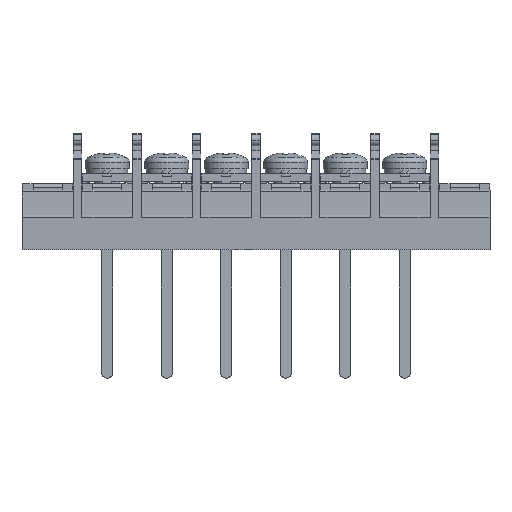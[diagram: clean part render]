
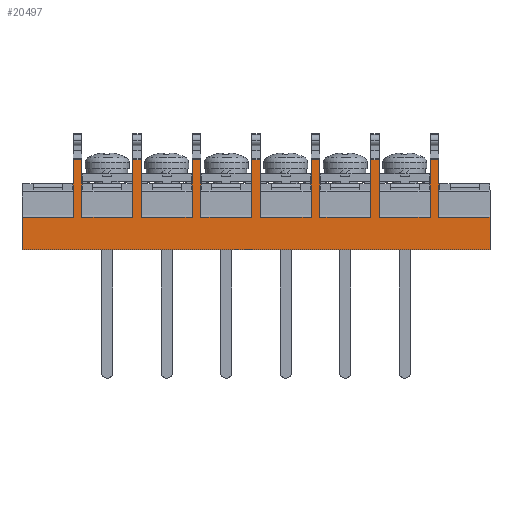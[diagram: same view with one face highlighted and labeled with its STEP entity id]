
A CAD part, top view. The second image highlights one B-rep face of the part: STEP entity #20497.
In plain terms, the highlighted planar face has unit normal (0, 0, 1).
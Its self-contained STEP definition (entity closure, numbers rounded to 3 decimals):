
#1494=VERTEX_POINT('',#28415);
#1495=VERTEX_POINT('',#28417);
#1505=VERTEX_POINT('',#28447);
#1517=VERTEX_POINT('',#28479);
#1518=VERTEX_POINT('',#28481);
#1537=VERTEX_POINT('',#28520);
#1563=VERTEX_POINT('',#28572);
#1584=VERTEX_POINT('',#28662);
#1588=VERTEX_POINT('',#28678);
#1759=VERTEX_POINT('',#29165);
#1761=VERTEX_POINT('',#29169);
#1766=VERTEX_POINT('',#29188);
#1769=VERTEX_POINT('',#29193);
#1803=VERTEX_POINT('',#29297);
#2018=VERTEX_POINT('',#29990);
#2030=VERTEX_POINT('',#30021);
#2031=VERTEX_POINT('',#30023);
#2049=VERTEX_POINT('',#30061);
#2186=VERTEX_POINT('',#30510);
#2198=VERTEX_POINT('',#30541);
#2199=VERTEX_POINT('',#30543);
#2217=VERTEX_POINT('',#30581);
#2354=VERTEX_POINT('',#31030);
#2366=VERTEX_POINT('',#31061);
#2367=VERTEX_POINT('',#31063);
#2385=VERTEX_POINT('',#31101);
#2522=VERTEX_POINT('',#31550);
#2525=VERTEX_POINT('',#31567);
#2526=VERTEX_POINT('',#31569);
#2527=VERTEX_POINT('',#31572);
#2528=VERTEX_POINT('',#31574);
#2529=VERTEX_POINT('',#31576);
#3645=VECTOR('',#22986,1.);
#3655=VECTOR('',#23018,1.);
#3665=VECTOR('',#23043,1.);
#3691=VECTOR('',#23110,1.);
#3693=VECTOR('',#23114,1.);
#3732=VECTOR('',#23197,1.);
#3737=VECTOR('',#23209,1.);
#3945=VECTOR('',#23572,1.);
#3953=VECTOR('',#23594,1.);
#3989=VECTOR('',#23682,1.);
#3990=VECTOR('',#23686,1.);
#4198=VECTOR('',#24190,1.);
#4208=VECTOR('',#24215,1.);
#4220=VECTOR('',#24247,1.);
#4247=VECTOR('',#24312,1.);
#4366=VECTOR('',#24589,1.);
#4376=VECTOR('',#24614,1.);
#4388=VECTOR('',#24646,1.);
#4415=VECTOR('',#24711,1.);
#4534=VECTOR('',#24988,1.);
#4544=VECTOR('',#25013,1.);
#4556=VECTOR('',#25045,1.);
#4583=VECTOR('',#25110,1.);
#4702=VECTOR('',#25387,1.);
#4708=VECTOR('',#25400,1.);
#4709=VECTOR('',#25402,1.);
#4710=VECTOR('',#25403,1.);
#4711=VECTOR('',#25404,1.);
#4712=VECTOR('',#25405,1.);
#4713=VECTOR('',#25406,1.);
#4714=VECTOR('',#25407,1.);
#4715=VECTOR('',#25408,1.);
#5951=LINE('',#28416,#3645);
#5961=LINE('',#28449,#3655);
#5971=LINE('',#28480,#3665);
#5997=LINE('',#28573,#3691);
#5999=LINE('',#28576,#3693);
#6038=LINE('',#28665,#3732);
#6043=LINE('',#28677,#3737);
#6251=LINE('',#29170,#3945);
#6259=LINE('',#29194,#3953);
#6295=LINE('',#29293,#3989);
#6296=LINE('',#29298,#3990);
#6504=LINE('',#29991,#4198);
#6514=LINE('',#30022,#4208);
#6526=LINE('',#30064,#4220);
#6553=LINE('',#30131,#4247);
#6672=LINE('',#30511,#4366);
#6682=LINE('',#30542,#4376);
#6694=LINE('',#30584,#4388);
#6721=LINE('',#30651,#4415);
#6840=LINE('',#31031,#4534);
#6850=LINE('',#31062,#4544);
#6862=LINE('',#31104,#4556);
#6889=LINE('',#31171,#4583);
#7008=LINE('',#31551,#4702);
#7014=LINE('',#31564,#4708);
#7015=LINE('',#31566,#4709);
#7016=LINE('',#31568,#4710);
#7017=LINE('',#31570,#4711);
#7018=LINE('',#31571,#4712);
#7019=LINE('',#31573,#4713);
#7020=LINE('',#31575,#4714);
#7021=LINE('',#31577,#4715);
#8364=EDGE_CURVE('',#1495,#1494,#5951,.T.);
#8380=EDGE_CURVE('',#1495,#1505,#5961,.T.);
#8395=EDGE_CURVE('',#1518,#1517,#5971,.T.);
#8441=EDGE_CURVE('',#1537,#1563,#5997,.T.);
#8443=EDGE_CURVE('',#1518,#1563,#5999,.T.);
#8487=EDGE_CURVE('',#1537,#1584,#6038,.T.);
#8493=EDGE_CURVE('',#1588,#1584,#6043,.T.);
#8741=EDGE_CURVE('',#1761,#1759,#6251,.T.);
#8753=EDGE_CURVE('',#1769,#1766,#6259,.T.);
#8803=EDGE_CURVE('',#1761,#1766,#6295,.T.);
#8805=EDGE_CURVE('',#1769,#1803,#6296,.T.);
#9126=EDGE_CURVE('',#2018,#1517,#6504,.T.);
#9141=EDGE_CURVE('',#2031,#2030,#6514,.T.);
#9162=EDGE_CURVE('',#2031,#2049,#6526,.T.);
#9196=EDGE_CURVE('',#2018,#2049,#6553,.T.);
#9369=EDGE_CURVE('',#2186,#2030,#6672,.T.);
#9384=EDGE_CURVE('',#2199,#2198,#6682,.T.);
#9405=EDGE_CURVE('',#2199,#2217,#6694,.T.);
#9439=EDGE_CURVE('',#2186,#2217,#6721,.T.);
#9612=EDGE_CURVE('',#2354,#2198,#6840,.T.);
#9627=EDGE_CURVE('',#2367,#2366,#6850,.T.);
#9648=EDGE_CURVE('',#2367,#2385,#6862,.T.);
#9682=EDGE_CURVE('',#2354,#2385,#6889,.T.);
#9855=EDGE_CURVE('',#2522,#2366,#7008,.T.);
#9862=EDGE_CURVE('',#1494,#1588,#7014,.T.);
#9863=EDGE_CURVE('',#2522,#2525,#7015,.T.);
#9864=EDGE_CURVE('',#2526,#2525,#7016,.T.);
#9865=EDGE_CURVE('',#2526,#1759,#7017,.T.);
#9866=EDGE_CURVE('',#2527,#1803,#7018,.T.);
#9867=EDGE_CURVE('',#2527,#2528,#7019,.T.);
#9868=EDGE_CURVE('',#2529,#2528,#7020,.T.);
#9869=EDGE_CURVE('',#2529,#1505,#7021,.T.);
#14740=ORIENTED_EDGE('',*,*,#9862,.T.);
#14741=ORIENTED_EDGE('',*,*,#8493,.T.);
#14742=ORIENTED_EDGE('',*,*,#8487,.F.);
#14743=ORIENTED_EDGE('',*,*,#8441,.T.);
#14744=ORIENTED_EDGE('',*,*,#8443,.F.);
#14745=ORIENTED_EDGE('',*,*,#8395,.T.);
#14746=ORIENTED_EDGE('',*,*,#9126,.F.);
#14747=ORIENTED_EDGE('',*,*,#9196,.T.);
#14748=ORIENTED_EDGE('',*,*,#9162,.F.);
#14749=ORIENTED_EDGE('',*,*,#9141,.T.);
#14750=ORIENTED_EDGE('',*,*,#9369,.F.);
#14751=ORIENTED_EDGE('',*,*,#9439,.T.);
#14752=ORIENTED_EDGE('',*,*,#9405,.F.);
#14753=ORIENTED_EDGE('',*,*,#9384,.T.);
#14754=ORIENTED_EDGE('',*,*,#9612,.F.);
#14755=ORIENTED_EDGE('',*,*,#9682,.T.);
#14756=ORIENTED_EDGE('',*,*,#9648,.F.);
#14757=ORIENTED_EDGE('',*,*,#9627,.T.);
#14758=ORIENTED_EDGE('',*,*,#9855,.F.);
#14759=ORIENTED_EDGE('',*,*,#9863,.T.);
#14760=ORIENTED_EDGE('',*,*,#9864,.F.);
#14761=ORIENTED_EDGE('',*,*,#9865,.T.);
#14762=ORIENTED_EDGE('',*,*,#8741,.F.);
#14763=ORIENTED_EDGE('',*,*,#8803,.T.);
#14764=ORIENTED_EDGE('',*,*,#8753,.F.);
#14765=ORIENTED_EDGE('',*,*,#8805,.T.);
#14766=ORIENTED_EDGE('',*,*,#9866,.F.);
#14767=ORIENTED_EDGE('',*,*,#9867,.T.);
#14768=ORIENTED_EDGE('',*,*,#9868,.F.);
#14769=ORIENTED_EDGE('',*,*,#9869,.T.);
#14770=ORIENTED_EDGE('',*,*,#8380,.F.);
#14771=ORIENTED_EDGE('',*,*,#8364,.T.);
#18052=EDGE_LOOP('',(#14740,#14741,#14742,#14743,#14744,#14745,#14746,#14747,
#14748,#14749,#14750,#14751,#14752,#14753,#14754,#14755,#14756,#14757,#14758,
#14759,#14760,#14761,#14762,#14763,#14764,#14765,#14766,#14767,#14768,#14769,
#14770,#14771));
#19314=FACE_BOUND('',#18052,.T.);
#20497=ADVANCED_FACE('',(#19314),#34753,.T.);
#21951=AXIS2_PLACEMENT_3D('',#31565,#25401,$);
#22986=DIRECTION('',(0.,-1.,0.));
#23018=DIRECTION('',(1.,0.,0.));
#23043=DIRECTION('',(0.,-1.,0.));
#23110=DIRECTION('',(0.,1.,0.));
#23114=DIRECTION('',(1.,0.,0.));
#23197=DIRECTION('',(1.,0.,0.));
#23209=DIRECTION('',(0.,1.,0.));
#23572=DIRECTION('',(1.,0.,0.));
#23594=DIRECTION('',(1.,0.,0.));
#23682=DIRECTION('',(0.,1.,0.));
#23686=DIRECTION('',(0.,-1.,0.));
#24190=DIRECTION('',(1.,0.,0.));
#24215=DIRECTION('',(0.,-1.,0.));
#24247=DIRECTION('',(1.,0.,0.));
#24312=DIRECTION('',(0.,1.,0.));
#24589=DIRECTION('',(1.,0.,0.));
#24614=DIRECTION('',(0.,-1.,0.));
#24646=DIRECTION('',(1.,0.,0.));
#24711=DIRECTION('',(0.,1.,0.));
#24988=DIRECTION('',(1.,0.,0.));
#25013=DIRECTION('',(0.,-1.,0.));
#25045=DIRECTION('',(1.,0.,0.));
#25110=DIRECTION('',(0.,1.,0.));
#25387=DIRECTION('',(1.,0.,0.));
#25400=DIRECTION('',(1.,0.,0.));
#25401=DIRECTION('',(0.,0.,1.));
#25402=DIRECTION('',(0.,1.,0.));
#25403=DIRECTION('',(1.,0.,0.));
#25404=DIRECTION('',(0.,-1.,0.));
#25405=DIRECTION('',(1.,0.,0.));
#25406=DIRECTION('',(0.,1.,0.));
#25407=DIRECTION('',(1.,0.,0.));
#25408=DIRECTION('',(0.,-1.,0.));
#28415=CARTESIAN_POINT('',(0.,0.,7.));
#28416=CARTESIAN_POINT('',(0.,5.2,7.));
#28417=CARTESIAN_POINT('',(0.,5.2,7.));
#28447=CARTESIAN_POINT('',(8.15,5.2,7.));
#28449=CARTESIAN_POINT('',(0.,5.2,7.));
#28479=CARTESIAN_POINT('',(65.15,5.2,7.));
#28480=CARTESIAN_POINT('',(65.15,14.327,7.));
#28481=CARTESIAN_POINT('',(65.15,14.327,7.));
#28520=CARTESIAN_POINT('',(66.55,5.2,7.));
#28572=CARTESIAN_POINT('',(66.55,14.327,7.));
#28573=CARTESIAN_POINT('',(66.55,14.327,7.));
#28576=CARTESIAN_POINT('',(65.15,14.327,7.));
#28662=CARTESIAN_POINT('',(74.7,5.2,7.));
#28665=CARTESIAN_POINT('',(66.55,5.2,7.));
#28677=CARTESIAN_POINT('',(74.7,5.2,7.));
#28678=CARTESIAN_POINT('',(74.7,0.,7.));
#29165=CARTESIAN_POINT('',(27.15,5.2,7.));
#29169=CARTESIAN_POINT('',(19.05,5.2,7.));
#29170=CARTESIAN_POINT('',(19.05,5.2,7.));
#29188=CARTESIAN_POINT('',(19.05,14.327,7.));
#29193=CARTESIAN_POINT('',(17.65,14.327,7.));
#29194=CARTESIAN_POINT('',(17.65,14.327,7.));
#29293=CARTESIAN_POINT('',(19.05,14.327,7.));
#29297=CARTESIAN_POINT('',(17.65,5.2,7.));
#29298=CARTESIAN_POINT('',(17.65,14.327,7.));
#29990=CARTESIAN_POINT('',(57.05,5.2,7.));
#29991=CARTESIAN_POINT('',(57.05,5.2,7.));
#30021=CARTESIAN_POINT('',(55.65,5.2,7.));
#30022=CARTESIAN_POINT('',(55.65,14.327,7.));
#30023=CARTESIAN_POINT('',(55.65,14.327,7.));
#30061=CARTESIAN_POINT('',(57.05,14.327,7.));
#30064=CARTESIAN_POINT('',(55.65,14.327,7.));
#30131=CARTESIAN_POINT('',(57.05,14.327,7.));
#30510=CARTESIAN_POINT('',(47.55,5.2,7.));
#30511=CARTESIAN_POINT('',(47.55,5.2,7.));
#30541=CARTESIAN_POINT('',(46.15,5.2,7.));
#30542=CARTESIAN_POINT('',(46.15,14.327,7.));
#30543=CARTESIAN_POINT('',(46.15,14.327,7.));
#30581=CARTESIAN_POINT('',(47.55,14.327,7.));
#30584=CARTESIAN_POINT('',(46.15,14.327,7.));
#30651=CARTESIAN_POINT('',(47.55,14.327,7.));
#31030=CARTESIAN_POINT('',(38.05,5.2,7.));
#31031=CARTESIAN_POINT('',(38.05,5.2,7.));
#31061=CARTESIAN_POINT('',(36.65,5.2,7.));
#31062=CARTESIAN_POINT('',(36.65,14.327,7.));
#31063=CARTESIAN_POINT('',(36.65,14.327,7.));
#31101=CARTESIAN_POINT('',(38.05,14.327,7.));
#31104=CARTESIAN_POINT('',(36.65,14.327,7.));
#31171=CARTESIAN_POINT('',(38.05,14.327,7.));
#31550=CARTESIAN_POINT('',(28.55,5.2,7.));
#31551=CARTESIAN_POINT('',(28.55,5.2,7.));
#31564=CARTESIAN_POINT('',(0.,0.,7.));
#31565=CARTESIAN_POINT('',(27.15,7.163,7.));
#31566=CARTESIAN_POINT('',(28.55,14.327,7.));
#31567=CARTESIAN_POINT('',(28.55,14.327,7.));
#31568=CARTESIAN_POINT('',(27.15,14.327,7.));
#31569=CARTESIAN_POINT('',(27.15,14.327,7.));
#31570=CARTESIAN_POINT('',(27.15,14.327,7.));
#31571=CARTESIAN_POINT('',(9.55,5.2,7.));
#31572=CARTESIAN_POINT('',(9.55,5.2,7.));
#31573=CARTESIAN_POINT('',(9.55,14.327,7.));
#31574=CARTESIAN_POINT('',(9.55,14.327,7.));
#31575=CARTESIAN_POINT('',(8.15,14.327,7.));
#31576=CARTESIAN_POINT('',(8.15,14.327,7.));
#31577=CARTESIAN_POINT('',(8.15,14.327,7.));
#34753=PLANE('',#21951);
